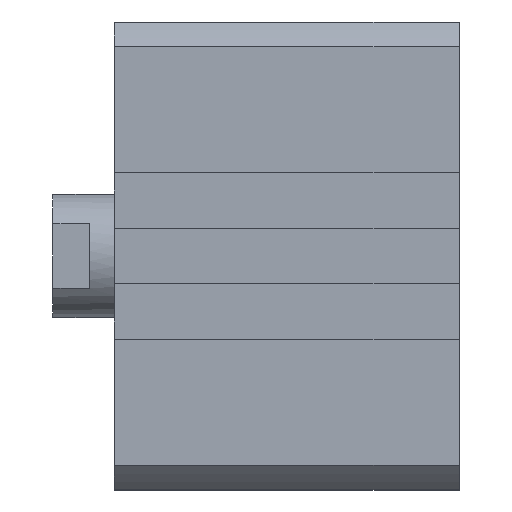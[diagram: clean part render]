
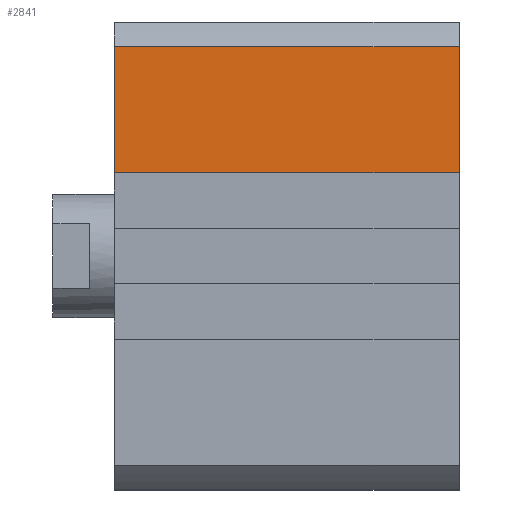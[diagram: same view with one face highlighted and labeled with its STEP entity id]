
A CAD part, left-side view. The second image highlights one B-rep face of the part: STEP entity #2841.
In plain terms, the highlighted planar face has unit normal (-1, 0, 0).
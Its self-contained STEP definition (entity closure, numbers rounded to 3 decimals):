
#82 = DIRECTION ( 'NONE',  ( -1., 0., 0. ) ) ;
#129 = VECTOR ( 'NONE', #134, 1000. ) ;
#134 = DIRECTION ( 'NONE',  ( 0., 0., 1. ) ) ;
#395 = VECTOR ( 'NONE', #429, 1000. ) ;
#429 = DIRECTION ( 'NONE',  ( 0., 1., 0. ) ) ;
#466 = DIRECTION ( 'NONE',  ( 0., 0., 1. ) ) ;
#560 = LINE ( 'NONE', #3325, #2850 ) ;
#599 = LINE ( 'NONE', #3051, #395 ) ;
#625 = VERTEX_POINT ( 'NONE', #1075 ) ;
#944 = EDGE_CURVE ( 'NONE', #625, #3263, #599, .T. ) ;
#996 = LINE ( 'NONE', #1641, #2879 ) ;
#1075 = CARTESIAN_POINT ( 'NONE',  ( -38., -56., 13.5 ) ) ;
#1091 = EDGE_CURVE ( 'NONE', #625, #1688, #560, .T. ) ;
#1110 = ORIENTED_EDGE ( 'NONE', *, *, #3144, .T. ) ;
#1114 = CARTESIAN_POINT ( 'NONE',  ( -38., -56., 0. ) ) ;
#1327 = FACE_OUTER_BOUND ( 'NONE', #2546, .T. ) ;
#1443 = AXIS2_PLACEMENT_3D ( 'NONE', #1114, #82, #2675 ) ;
#1455 = EDGE_CURVE ( 'NONE', #3263, #3242, #2731, .T. ) ;
#1488 = ORIENTED_EDGE ( 'NONE', *, *, #1455, .F. ) ;
#1490 = CARTESIAN_POINT ( 'NONE',  ( -38., -56., 34.015 ) ) ;
#1629 = ORIENTED_EDGE ( 'NONE', *, *, #1091, .T. ) ;
#1636 = ORIENTED_EDGE ( 'NONE', *, *, #944, .F. ) ;
#1641 = CARTESIAN_POINT ( 'NONE',  ( -38., -56., 34.015 ) ) ;
#1688 = VERTEX_POINT ( 'NONE', #1490 ) ;
#1691 = CARTESIAN_POINT ( 'NONE',  ( -38., 0., 0. ) ) ;
#1888 = PLANE ( 'NONE',  #1443 ) ;
#1921 = CARTESIAN_POINT ( 'NONE',  ( -38., 0., 13.5 ) ) ;
#2211 = CARTESIAN_POINT ( 'NONE',  ( -38., 0., 34.015 ) ) ;
#2546 = EDGE_LOOP ( 'NONE', ( #1488, #1636, #1629, #1110 ) ) ;
#2675 = DIRECTION ( 'NONE',  ( 0., 0., 1. ) ) ;
#2731 = LINE ( 'NONE', #1691, #129 ) ;
#2841 = ADVANCED_FACE ( 'NONE', ( #1327 ), #1888, .T. ) ;
#2850 = VECTOR ( 'NONE', #466, 1000. ) ;
#2879 = VECTOR ( 'NONE', #3168, 1000. ) ;
#3051 = CARTESIAN_POINT ( 'NONE',  ( -38., -56., 13.5 ) ) ;
#3144 = EDGE_CURVE ( 'NONE', #1688, #3242, #996, .T. ) ;
#3168 = DIRECTION ( 'NONE',  ( 0., 1., 0. ) ) ;
#3242 = VERTEX_POINT ( 'NONE', #2211 ) ;
#3263 = VERTEX_POINT ( 'NONE', #1921 ) ;
#3325 = CARTESIAN_POINT ( 'NONE',  ( -38., -56., 0. ) ) ;
